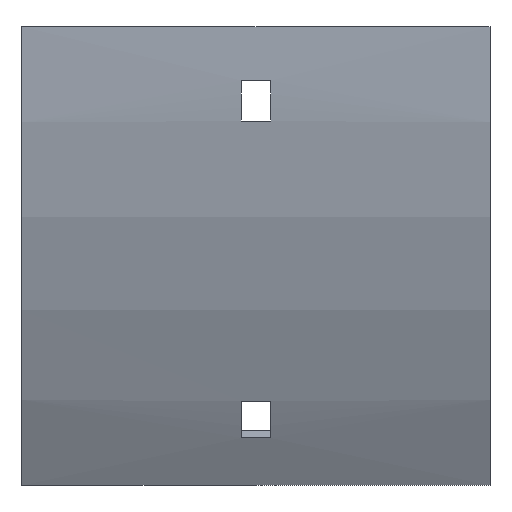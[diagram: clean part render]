
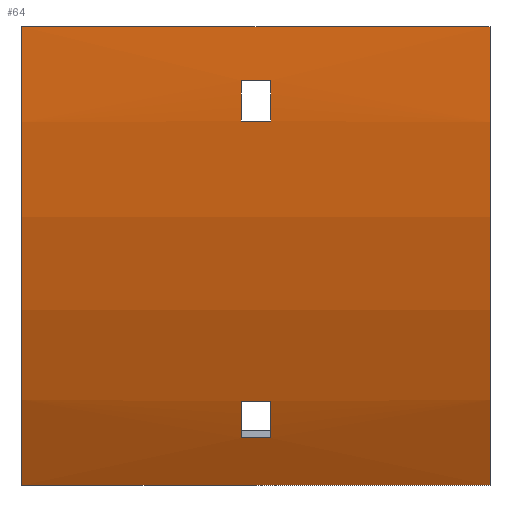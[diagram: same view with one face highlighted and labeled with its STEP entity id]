
A CAD part, front view. The second image highlights one B-rep face of the part: STEP entity #64.
In plain terms, the highlighted cylindrical face has radius 204 mm (diameter 408 mm), a partial arc.
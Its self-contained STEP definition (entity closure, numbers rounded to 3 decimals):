
#8 = EDGE_LOOP ( 'NONE', ( #317, #626, #1129, #391 ) ) ;
#9 = EDGE_CURVE ( 'NONE', #1354, #907, #198, .T. ) ;
#12 = LINE ( 'NONE', #133, #1363 ) ;
#31 = AXIS2_PLACEMENT_3D ( 'NONE', #921, #552, #680 ) ;
#40 = LINE ( 'NONE', #1621, #961 ) ;
#64 = ADVANCED_FACE ( 'NONE', ( #727, #1252, #596 ), #1111, .T. ) ;
#133 = CARTESIAN_POINT ( 'NONE',  ( 52., -102.916, -21. ) ) ;
#145 = AXIS2_PLACEMENT_3D ( 'NONE', #1660, #1693, #1410 ) ;
#146 = LINE ( 'NONE', #1025, #1229 ) ;
#152 = DIRECTION ( 'NONE',  ( 1., 0., 0. ) ) ;
#154 = ORIENTED_EDGE ( 'NONE', *, *, #1205, .F. ) ;
#155 = EDGE_LOOP ( 'NONE', ( #1335, #1046, #447, #1274 ) ) ;
#198 = CIRCLE ( 'NONE', #870, 204. ) ;
#207 = CARTESIAN_POINT ( 'NONE',  ( -52., -76.669, -102. ) ) ;
#235 = EDGE_CURVE ( 'NONE', #1518, #1657, #1267, .T. ) ;
#290 = VERTEX_POINT ( 'NONE', #609 ) ;
#300 = VERTEX_POINT ( 'NONE', #1391 ) ;
#304 = CARTESIAN_POINT ( 'NONE',  ( -3.25, -82.363, -91.431 ) ) ;
#317 = ORIENTED_EDGE ( 'NONE', *, *, #1529, .T. ) ;
#361 = EDGE_CURVE ( 'NONE', #1598, #1518, #1331, .T. ) ;
#390 = VERTEX_POINT ( 'NONE', #837 ) ;
#391 = ORIENTED_EDGE ( 'NONE', *, *, #235, .T. ) ;
#428 = AXIS2_PLACEMENT_3D ( 'NONE', #516, #1176, #784 ) ;
#447 = ORIENTED_EDGE ( 'NONE', *, *, #833, .F. ) ;
#480 = CARTESIAN_POINT ( 'NONE',  ( 52., -82.363, -91.431 ) ) ;
#487 = CARTESIAN_POINT ( 'NONE',  ( 52., -86.231, -83.272 ) ) ;
#498 = VERTEX_POINT ( 'NONE', #1504 ) ;
#516 = CARTESIAN_POINT ( 'NONE',  ( 3.25, 100., 0. ) ) ;
#524 = VECTOR ( 'NONE', #1167, 1000. ) ;
#535 = CARTESIAN_POINT ( 'NONE',  ( 3.25, 100., 0. ) ) ;
#552 = DIRECTION ( 'NONE',  ( -1., 0., 0. ) ) ;
#596 = FACE_BOUND ( 'NONE', #751, .T. ) ;
#609 = CARTESIAN_POINT ( 'NONE',  ( -3.25, -102.916, -21. ) ) ;
#626 = ORIENTED_EDGE ( 'NONE', *, *, #770, .T. ) ;
#650 = EDGE_CURVE ( 'NONE', #300, #1579, #1561, .T. ) ;
#664 = CARTESIAN_POINT ( 'NONE',  ( 52., -103.647, -12. ) ) ;
#666 = EDGE_CURVE ( 'NONE', #1579, #1336, #1425, .T. ) ;
#680 = DIRECTION ( 'NONE',  ( 0., 0., 1. ) ) ;
#727 = FACE_OUTER_BOUND ( 'NONE', #155, .T. ) ;
#751 = EDGE_LOOP ( 'NONE', ( #943, #1688, #154, #1065 ) ) ;
#770 = EDGE_CURVE ( 'NONE', #290, #1598, #1592, .T. ) ;
#780 = DIRECTION ( 'NONE',  ( -1., 0., 0. ) ) ;
#784 = DIRECTION ( 'NONE',  ( 0., 0., 1. ) ) ;
#790 = CARTESIAN_POINT ( 'NONE',  ( 3.25, -82.363, -91.431 ) ) ;
#828 = AXIS2_PLACEMENT_3D ( 'NONE', #1063, #1070, #947 ) ;
#833 = EDGE_CURVE ( 'NONE', #498, #390, #1567, .T. ) ;
#837 = CARTESIAN_POINT ( 'NONE',  ( 52., -76.669, -102. ) ) ;
#838 = CARTESIAN_POINT ( 'NONE',  ( -52., -104., 0. ) ) ;
#870 = AXIS2_PLACEMENT_3D ( 'NONE', #1384, #999, #1539 ) ;
#907 = VERTEX_POINT ( 'NONE', #207 ) ;
#921 = CARTESIAN_POINT ( 'NONE',  ( -3.25, 100., 0. ) ) ;
#943 = ORIENTED_EDGE ( 'NONE', *, *, #666, .F. ) ;
#947 = DIRECTION ( 'NONE',  ( 0., 0., -1. ) ) ;
#961 = VECTOR ( 'NONE', #1485, 1000. ) ;
#975 = EDGE_CURVE ( 'NONE', #390, #907, #40, .T. ) ;
#999 = DIRECTION ( 'NONE',  ( 1., 0., 0. ) ) ;
#1025 = CARTESIAN_POINT ( 'NONE',  ( 52., -104., 0. ) ) ;
#1046 = ORIENTED_EDGE ( 'NONE', *, *, #975, .F. ) ;
#1058 = CARTESIAN_POINT ( 'NONE',  ( -3.25, -103.647, -12. ) ) ;
#1063 = CARTESIAN_POINT ( 'NONE',  ( 52., 100., 0. ) ) ;
#1065 = ORIENTED_EDGE ( 'NONE', *, *, #1090, .F. ) ;
#1070 = DIRECTION ( 'NONE',  ( 1., 0., 0. ) ) ;
#1090 = EDGE_CURVE ( 'NONE', #1336, #1530, #1651, .T. ) ;
#1111 = CYLINDRICAL_SURFACE ( 'NONE', #1667, 204. ) ;
#1129 = ORIENTED_EDGE ( 'NONE', *, *, #361, .T. ) ;
#1147 = DIRECTION ( 'NONE',  ( 1., 0., 0. ) ) ;
#1164 = CIRCLE ( 'NONE', #428, 204. ) ;
#1167 = DIRECTION ( 'NONE',  ( -1., 0., 0. ) ) ;
#1176 = DIRECTION ( 'NONE',  ( -1., 0., 0. ) ) ;
#1195 = CARTESIAN_POINT ( 'NONE',  ( -3.25, -86.231, -83.272 ) ) ;
#1205 = EDGE_CURVE ( 'NONE', #1530, #300, #1164, .T. ) ;
#1229 = VECTOR ( 'NONE', #1565, 1000. ) ;
#1240 = AXIS2_PLACEMENT_3D ( 'NONE', #535, #152, #1379 ) ;
#1252 = FACE_BOUND ( 'NONE', #8, .T. ) ;
#1257 = VECTOR ( 'NONE', #1526, 1000. ) ;
#1267 = CIRCLE ( 'NONE', #1240, 204. ) ;
#1274 = ORIENTED_EDGE ( 'NONE', *, *, #1618, .T. ) ;
#1331 = LINE ( 'NONE', #664, #1695 ) ;
#1335 = ORIENTED_EDGE ( 'NONE', *, *, #9, .T. ) ;
#1336 = VERTEX_POINT ( 'NONE', #304 ) ;
#1354 = VERTEX_POINT ( 'NONE', #838 ) ;
#1363 = VECTOR ( 'NONE', #1556, 1000. ) ;
#1379 = DIRECTION ( 'NONE',  ( 0., 0., -1. ) ) ;
#1384 = CARTESIAN_POINT ( 'NONE',  ( -52., 100., 0. ) ) ;
#1391 = CARTESIAN_POINT ( 'NONE',  ( 3.25, -86.231, -83.272 ) ) ;
#1410 = DIRECTION ( 'NONE',  ( 0., 0., -1. ) ) ;
#1425 = CIRCLE ( 'NONE', #145, 204. ) ;
#1434 = DIRECTION ( 'NONE',  ( 0., 0., 1. ) ) ;
#1462 = CARTESIAN_POINT ( 'NONE',  ( 3.25, -103.647, -12. ) ) ;
#1485 = DIRECTION ( 'NONE',  ( -1., 0., 0. ) ) ;
#1498 = CARTESIAN_POINT ( 'NONE',  ( 3.25, -102.916, -21. ) ) ;
#1504 = CARTESIAN_POINT ( 'NONE',  ( 52., -104., 0. ) ) ;
#1518 = VERTEX_POINT ( 'NONE', #1462 ) ;
#1526 = DIRECTION ( 'NONE',  ( 1., 0., 0. ) ) ;
#1529 = EDGE_CURVE ( 'NONE', #1657, #290, #12, .T. ) ;
#1530 = VERTEX_POINT ( 'NONE', #790 ) ;
#1539 = DIRECTION ( 'NONE',  ( 0., 0., -1. ) ) ;
#1556 = DIRECTION ( 'NONE',  ( -1., 0., 0. ) ) ;
#1561 = LINE ( 'NONE', #487, #524 ) ;
#1565 = DIRECTION ( 'NONE',  ( -1., 0., 0. ) ) ;
#1567 = CIRCLE ( 'NONE', #828, 204. ) ;
#1579 = VERTEX_POINT ( 'NONE', #1195 ) ;
#1592 = CIRCLE ( 'NONE', #31, 204. ) ;
#1598 = VERTEX_POINT ( 'NONE', #1058 ) ;
#1618 = EDGE_CURVE ( 'NONE', #498, #1354, #146, .T. ) ;
#1621 = CARTESIAN_POINT ( 'NONE',  ( 52., -76.669, -102. ) ) ;
#1642 = CARTESIAN_POINT ( 'NONE',  ( 52., 100., 0. ) ) ;
#1651 = LINE ( 'NONE', #480, #1257 ) ;
#1657 = VERTEX_POINT ( 'NONE', #1498 ) ;
#1660 = CARTESIAN_POINT ( 'NONE',  ( -3.25, 100., 0. ) ) ;
#1667 = AXIS2_PLACEMENT_3D ( 'NONE', #1642, #780, #1434 ) ;
#1688 = ORIENTED_EDGE ( 'NONE', *, *, #650, .F. ) ;
#1693 = DIRECTION ( 'NONE',  ( 1., 0., 0. ) ) ;
#1695 = VECTOR ( 'NONE', #1147, 1000. ) ;
